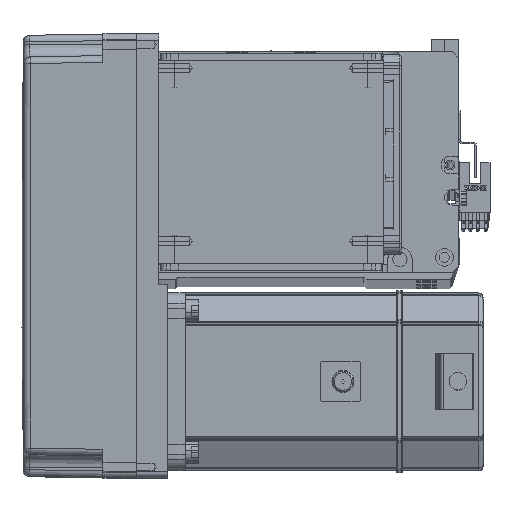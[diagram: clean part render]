
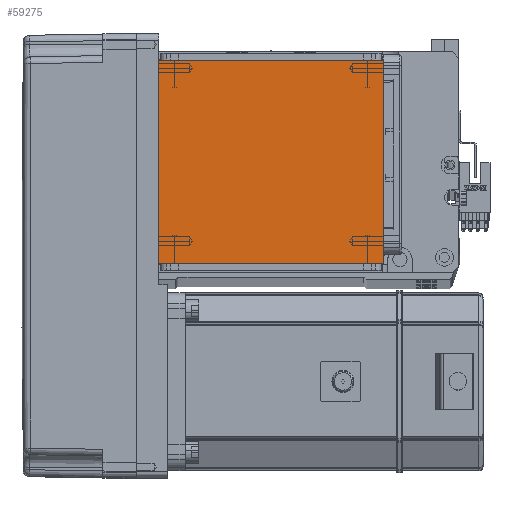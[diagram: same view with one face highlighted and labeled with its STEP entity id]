
A CAD part, top view. The second image highlights one B-rep face of the part: STEP entity #59275.
In plain terms, the highlighted planar face has unit normal (0, 0, 1).
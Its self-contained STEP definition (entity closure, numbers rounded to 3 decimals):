
#2675 = DIRECTION ( 'NONE',  ( -1., 0., 0. ) ) ;
#3741 = VECTOR ( 'NONE', #24734, 1000. ) ;
#4165 = VERTEX_POINT ( 'NONE', #49221 ) ;
#4285 = ORIENTED_EDGE ( 'NONE', *, *, #50382, .T. ) ;
#5508 = FACE_OUTER_BOUND ( 'NONE', #61122, .T. ) ;
#6187 = LINE ( 'NONE', #32450, #6985 ) ;
#6985 = VECTOR ( 'NONE', #27518, 1000. ) ;
#10605 = AXIS2_PLACEMENT_3D ( 'NONE', #26478, #40652, #50518 ) ;
#13840 = VERTEX_POINT ( 'NONE', #55808 ) ;
#14512 = LINE ( 'NONE', #58890, #3741 ) ;
#16865 = PLANE ( 'NONE',  #10605 ) ;
#19727 = EDGE_CURVE ( 'NONE', #13840, #48019, #27956, .T. ) ;
#24532 = DIRECTION ( 'NONE',  ( 0., -1., 0. ) ) ;
#24734 = DIRECTION ( 'NONE',  ( 0., 1., 0. ) ) ;
#26478 = CARTESIAN_POINT ( 'NONE',  ( 0., 0., 115. ) ) ;
#27518 = DIRECTION ( 'NONE',  ( 1., 0., 0. ) ) ;
#27956 = LINE ( 'NONE', #61423, #56432 ) ;
#32450 = CARTESIAN_POINT ( 'NONE',  ( -70.004, 111.5, 115. ) ) ;
#34150 = EDGE_CURVE ( 'NONE', #36202, #4165, #6187, .T. ) ;
#34188 = CARTESIAN_POINT ( 'NONE',  ( -50.5, 122., 115. ) ) ;
#36202 = VERTEX_POINT ( 'NONE', #44261 ) ;
#39667 = LINE ( 'NONE', #34188, #42706 ) ;
#40652 = DIRECTION ( 'NONE',  ( 0., 0., 1. ) ) ;
#42103 = EDGE_CURVE ( 'NONE', #13840, #4165, #14512, .T. ) ;
#42667 = ORIENTED_EDGE ( 'NONE', *, *, #19727, .F. ) ;
#42706 = VECTOR ( 'NONE', #24532, 1000. ) ;
#44261 = CARTESIAN_POINT ( 'NONE',  ( -50.5, 111.5, 115. ) ) ;
#45627 = ORIENTED_EDGE ( 'NONE', *, *, #42103, .T. ) ;
#47227 = ORIENTED_EDGE ( 'NONE', *, *, #34150, .F. ) ;
#48019 = VERTEX_POINT ( 'NONE', #54858 ) ;
#49221 = CARTESIAN_POINT ( 'NONE',  ( 50.5, 111.5, 115. ) ) ;
#50382 = EDGE_CURVE ( 'NONE', #36202, #48019, #39667, .T. ) ;
#50518 = DIRECTION ( 'NONE',  ( 1., 0., 0. ) ) ;
#54858 = CARTESIAN_POINT ( 'NONE',  ( -50.5, 20., 115. ) ) ;
#55808 = CARTESIAN_POINT ( 'NONE',  ( 50.5, 20., 115. ) ) ;
#56432 = VECTOR ( 'NONE', #2675, 1000. ) ;
#58890 = CARTESIAN_POINT ( 'NONE',  ( 50.5, 122., 115. ) ) ;
#59275 = ADVANCED_FACE ( 'NONE', ( #5508 ), #16865, .T. ) ;
#61122 = EDGE_LOOP ( 'NONE', ( #47227, #4285, #42667, #45627 ) ) ;
#61423 = CARTESIAN_POINT ( 'NONE',  ( -70.004, 20., 115. ) ) ;
